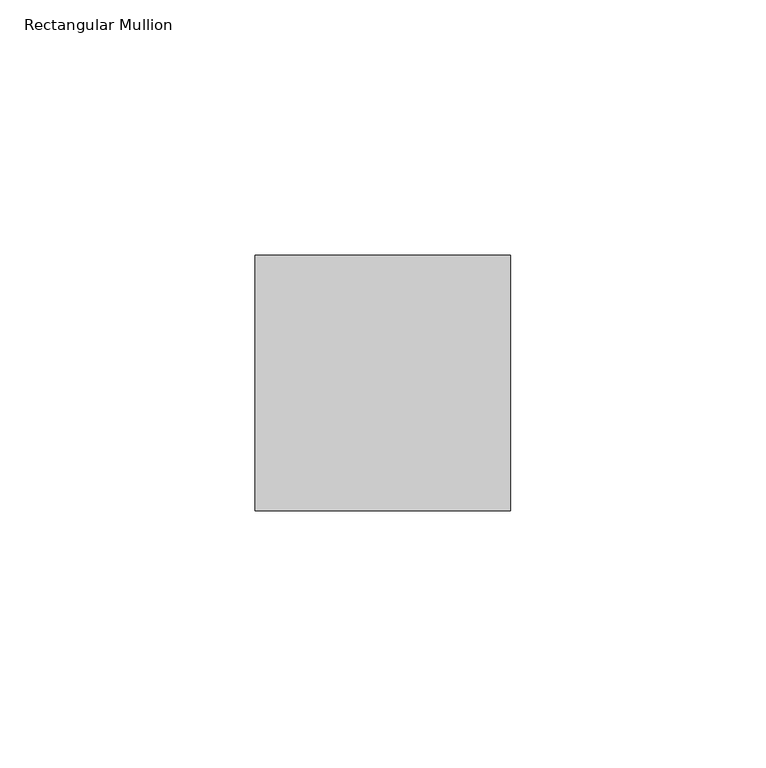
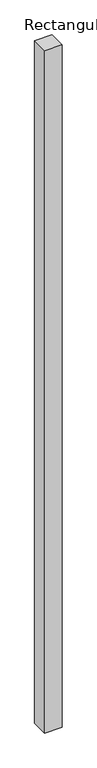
"""IFC4 building model written with IfcOpenShell, lengths in millimetres: member geometry, Rectangular Mullion : Mullion_Curtain Wall_Generic Showcase_50x50mm."""

import ifcopenshell
import ifcopenshell.guid

model = None  # the IFC model being written
_history = None  # IfcOwnerHistory: only IFC2X3 demands one
_inside = {}  # id of a spatial element -> (the spatial element, [elements in it])
_under = {}  # id of a project, library or spatial element -> (it, [spatial elements below it])
_declared = {}  # id of a project -> (the project, [libraries it declares])
_typed = {}  # id of a type object -> (the type object, [elements of that type])
_made_of = {}  # id of a material, layer set ... -> (it, [elements and type objects made of it])


def new_model(schema):
    """Start an empty IFC model of exactly this schema.

    Asked for "IFC4X3", IfcOpenShell would pick the latest addendum, in which some entities
    have other attributes; the version numbers below select the first issue.
    IFC2X3 requires an IfcOwnerHistory on every rooted entity: one is made here for all.
    """
    global model, _history
    if schema == "IFC4X3":
        model = ifcopenshell.file(schema_version=(4, 3, 0, 0))
    else:
        model = ifcopenshell.file(schema=schema)
    _inside.clear()
    _under.clear()
    _declared.clear()
    _typed.clear()
    _made_of.clear()
    _history = None
    if model.schema == "IFC2X3":
        org = make("IfcOrganization", Name="unknown")
        user = make(
            "IfcPersonAndOrganization",
            ThePerson=make("IfcPerson", FamilyName="unknown"),
            TheOrganization=org,
        )
        app = make(
            "IfcApplication",
            ApplicationDeveloper=org,
            Version="unknown",
            ApplicationFullName="unknown",
            ApplicationIdentifier="unknown",
        )
        _history = make(
            "IfcOwnerHistory",
            OwningUser=user,
            OwningApplication=app,
            ChangeAction="ADDED",
            CreationDate=0,
        )
    return model


def make(cls, **values):
    """One entity of the class cls with the attributes given. An attribute that is None is left unset."""
    return model.create_entity(
        cls, **{name: value for name, value in values.items() if value is not None}
    )


def rooted(cls, **values):
    """An entity with a GlobalId (a new one), such as an element, a storey or a relation."""
    return make(cls, GlobalId=ifcopenshell.guid.new(), OwnerHistory=_history, **values)


def si_unit(unit_type, name, prefix=None):
    """IfcSIUnit, for example si_unit("LENGTHUNIT", "METRE", prefix="MILLI")."""
    return make("IfcSIUnit", UnitType=unit_type, Prefix=prefix, Name=name)


def assignment(units):
    """IfcUnitAssignment: the units of a project."""
    return None if units is None else make("IfcUnitAssignment", Units=units)


def point(xyz):
    """IfcCartesianPoint."""
    return None if xyz is None else make("IfcCartesianPoint", Coordinates=xyz)


def direction(xyz):
    """IfcDirection."""
    return None if xyz is None else make("IfcDirection", DirectionRatios=xyz)


def frame(location, z_axis=None, x_axis=None):
    """IfcAxis2Placement3D, a coordinate frame: its origin and axes. An axis left out is left unset."""
    return make(
        "IfcAxis2Placement3D",
        Location=point(location),
        Axis=direction(z_axis),
        RefDirection=direction(x_axis),
    )


def origin():
    """The frame at (0, 0, 0) with its axes left unset."""
    return frame((0.0, 0.0, 0.0))


def place(relative_to, where):
    """IfcLocalPlacement: puts the frame where relative to a parent placement (None: the world)."""
    return make(
        "IfcLocalPlacement", PlacementRelTo=relative_to, RelativePlacement=where
    )


def context(
    kind, dimensions, precision=None, world=None, true_north=None, identifier=None
):
    """IfcGeometricRepresentationContext, for example the 3D "Model" context."""
    return make(
        "IfcGeometricRepresentationContext",
        ContextIdentifier=identifier,
        ContextType=kind,
        CoordinateSpaceDimension=dimensions,
        Precision=precision,
        WorldCoordinateSystem=world,
        TrueNorth=true_north,
    )


def project(units=None, contexts=None):
    """IfcProject with its units and contexts."""
    return rooted(
        "IfcProject",
        Name="project",
        RepresentationContexts=contexts,
        UnitsInContext=assignment(units),
    )


def spatial(cls, under=None, at=None, **own):
    """A site, building, storey or space (cls), placed at a placement, below another one or the project."""
    s = rooted(cls, ObjectPlacement=at, **own)
    if under is not None:
        _under.setdefault(under.id(), (under, []))[1].append(s)
    return s


def polyline(points):
    """IfcPolyline through the points."""
    return make("IfcPolyline", Points=[point(p) for p in points])


def outline(outer, holes=None, kind="AREA"):
    """IfcArbitraryClosedProfileDef: a profile drawn as a closed curve; with holes, ...WithVoids."""
    if holes is None:
        return make("IfcArbitraryClosedProfileDef", ProfileType=kind, OuterCurve=outer)
    return make(
        "IfcArbitraryProfileDefWithVoids",
        ProfileType=kind,
        OuterCurve=outer,
        InnerCurves=holes,
    )


def extrude(swept, where, along, depth):
    """IfcExtrudedAreaSolid: the profile swept, set in the frame where, extruded along a direction by depth."""
    return make(
        "IfcExtrudedAreaSolid",
        SweptArea=swept,
        Position=where,
        ExtrudedDirection=direction(along),
        Depth=depth,
    )


def shape(context_of_items, identifier, shape_type, items):
    """IfcShapeRepresentation: the items that make up one representation, for example the "Body"."""
    return make(
        "IfcShapeRepresentation",
        ContextOfItems=context_of_items,
        RepresentationIdentifier=identifier,
        RepresentationType=shape_type,
        Items=items,
    )


def source(mapping_origin, context_of_items, identifier, shape_type, items):
    """IfcRepresentationMap: a shape defined once, which mapped items show again and again."""
    return make(
        "IfcRepresentationMap",
        MappingOrigin=mapping_origin,
        MappedRepresentation=shape(context_of_items, identifier, shape_type, items),
    )


def transform(
    local_origin,
    x_axis=None,
    y_axis=None,
    z_axis=None,
    scale=None,
    scale2=None,
    scale3=None,
    uniform=True,
):
    """IfcCartesianTransformationOperator3D, or its non-uniform kind. x_axis, y_axis, z_axis: its Axis1, 2, 3."""
    if uniform:
        return make(
            "IfcCartesianTransformationOperator3D",
            Axis1=direction(x_axis),
            Axis2=direction(y_axis),
            LocalOrigin=point(local_origin),
            Scale=scale,
            Axis3=direction(z_axis),
        )
    return make(
        "IfcCartesianTransformationOperator3DnonUniform",
        Axis1=direction(x_axis),
        Axis2=direction(y_axis),
        LocalOrigin=point(local_origin),
        Scale=scale,
        Axis3=direction(z_axis),
        Scale2=scale2,
        Scale3=scale3,
    )


def mapped(mapping_source, mapping_target):
    """IfcMappedItem: shows the shape of a source again, moved by a transform."""
    return make(
        "IfcMappedItem", MappingSource=mapping_source, MappingTarget=mapping_target
    )


def made_of(thing, what):
    """Note that an element or type object is made of a material, layer set ...; save() writes the relation."""
    if what is not None:
        _made_of.setdefault(what.id(), (what, []))[1].append(thing)
    return thing


def element(
    cls,
    number,
    at=None,
    inside=None,
    cuts=None,
    type_object=None,
    material=None,
    context=None,
    identifier="Body",
    shape_type=None,
    held_by="IfcProductDefinitionShape",
    body=None,
    shapes=None,
    **own,
):
    """One element of the class cls, such as IfcWall. Its Tag is "e" and its number.

    at: its placement. inside: the storey or other place that contains it. cuts: it is an
    opening in that element (IfcRelVoidsElement). A single representation is given by context,
    identifier, shape_type and body (its items); several are given by shapes. held_by: the class
    of the entity that holds the representations. save() writes the other relations.
    """
    e = rooted(cls, Tag="e%d" % number, ObjectPlacement=at, **own)
    if body is not None:
        shapes = [shape(context, identifier, shape_type, body)]
    if shapes is not None:
        e.Representation = make(held_by, Representations=shapes)
    if inside is not None:
        _inside.setdefault(inside.id(), (inside, []))[1].append(e)
    if cuts is not None:
        rooted(
            "IfcRelVoidsElement", RelatingBuildingElement=cuts, RelatedOpeningElement=e
        )
    if type_object is not None:
        _typed.setdefault(type_object.id(), (type_object, []))[1].append(e)
    return made_of(e, material)


def aggregate(whole, parts):
    """IfcRelAggregates: a whole, such as a stair, and the parts it consists of."""
    return rooted("IfcRelAggregates", RelatingObject=whole, RelatedObjects=parts)


def save(model, path):
    """Write the relations noted so far, then the file.

    IfcRelAggregates (storeys below a building ...), IfcRelContainedInSpatialStructure (elements
    in a storey), IfcRelDefinesByType, IfcRelAssociatesMaterial and IfcRelDeclares: one each for
    every whole, place, type object, material and project.
    """
    for whole, parts in _under.values():
        aggregate(whole, parts)
    for where, things in _inside.values():
        rooted(
            "IfcRelContainedInSpatialStructure",
            RelatedElements=things,
            RelatingStructure=where,
        )
    for kind, things in _typed.values():
        rooted("IfcRelDefinesByType", RelatedObjects=things, RelatingType=kind)
    for what, things in _made_of.values():
        rooted("IfcRelAssociatesMaterial", RelatedObjects=things, RelatingMaterial=what)
    for by, libraries in _declared.values():
        rooted("IfcRelDeclares", RelatingContext=by, RelatedDefinitions=libraries)
    model.write(path)


def rectangular_mullion_ae489d37(model_context):
    return source(origin(), model_context, "Body", "SweptSolid", [
        extrude(outline(polyline([(0.0, 0.0), (0.0, -50.0), (-50.0, -50.0), (-50.0, 0.0), (0.0, 0.0)])), frame((0.0, 0.0, -2075.0), z_axis=(0.0, 0.0, 1.0), x_axis=(1.0, 0.0, 0.0)), (0.0, 0.0, 1.0), 2075.0),
    ])


if __name__ == "__main__":
    model = new_model("IFC4")
    model_context = context("Model", 3, world=origin())
    ifc_project = project(units=[si_unit("LENGTHUNIT", "METRE", prefix="MILLI")], contexts=[model_context])
    site = spatial("IfcSite", under=ifc_project)
    building = spatial("IfcBuilding", under=site)
    placement = place(None, origin())
    rectangular_mullion_shape = rectangular_mullion_ae489d37(model_context)
    element("IfcMember", 1, ObjectType="Rectangular Mullion : Mullion_Curtain Wall_Generic Showcase_50x50mm", at=placement, inside=building, context=model_context, shape_type="MappedRepresentation", body=[
        mapped(rectangular_mullion_shape, transform((0.0, 0.0, 0.0), x_axis=(1.0, 0.0, 0.0), y_axis=(0.0, 1.0, 0.0), z_axis=(0.0, 0.0, 1.0))),
    ])
    save(model, "model.ifc")
